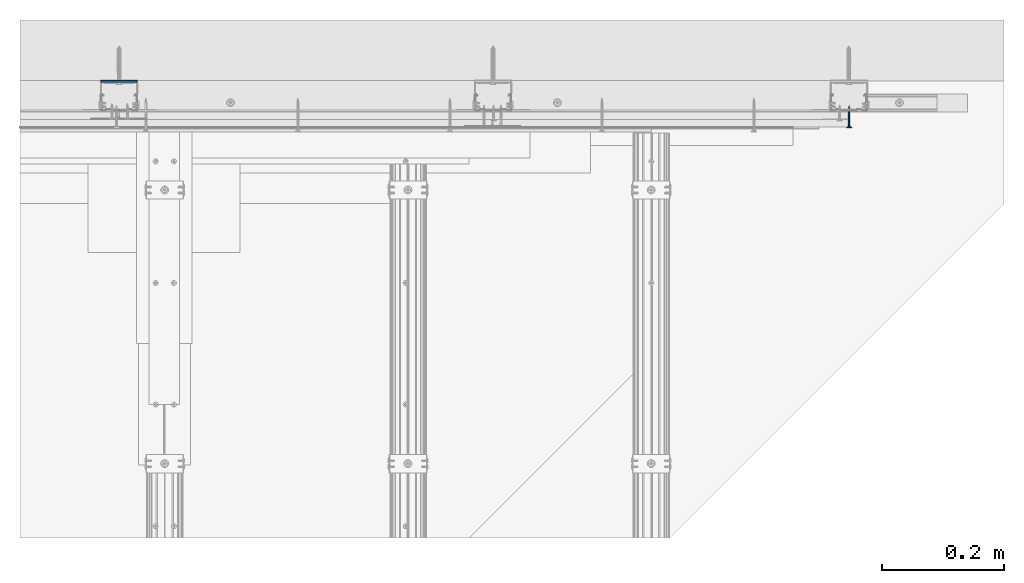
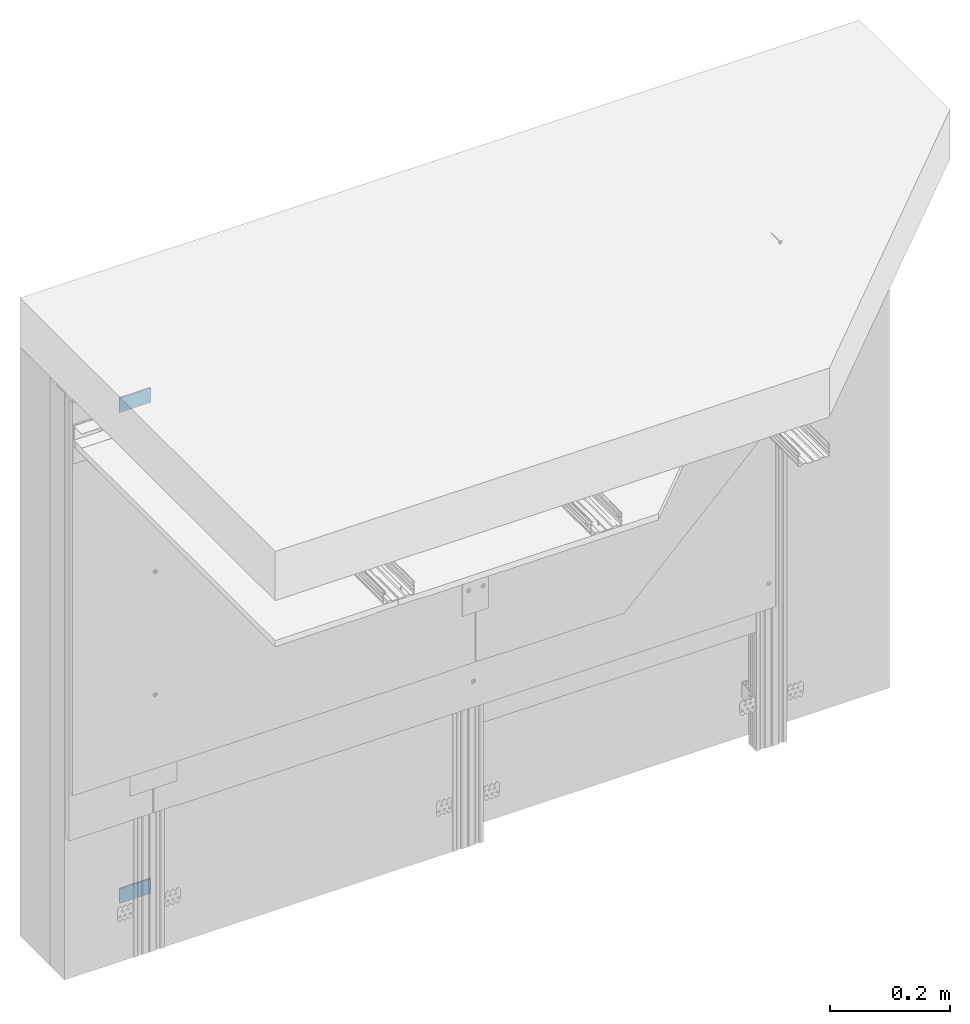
# One storey, part 55 of 62: 3 walls.
"""IFC2X3 building model written with IfcOpenShell, lengths in millimetres."""

from ifc_helpers import new_model, entity, si_unit, converted_unit, direction, frame, origin, origin_with_axes, place, context, project, spatial, faceted_brep, element, save


model = new_model("IFC2X3")

# Units and contexts
model_context = context("Model", 3, precision=1e-05, world=origin(), true_north=direction((0.0, 1.0, 0.0)))
ifc_project = project(units=[si_unit("LENGTHUNIT", "METRE", prefix="MILLI"), si_unit("AREAUNIT", "SQUARE_METRE"), si_unit("VOLUMEUNIT", "CUBIC_METRE"), converted_unit("PLANEANGLEUNIT", "DEGREE", entity("IfcPlaneAngleMeasure", 0.01745), si_unit("PLANEANGLEUNIT", "RADIAN"), dimensions=[0, 0, 0, 0, 0, 0, 0]), si_unit("SOLIDANGLEUNIT", "STERADIAN"), si_unit("MASSUNIT", "GRAM"), si_unit("TIMEUNIT", "SECOND"), si_unit("THERMODYNAMICTEMPERATUREUNIT", "DEGREE_CELSIUS"), si_unit("LUMINOUSINTENSITYUNIT", "LUMEN")], contexts=[model_context])

# Site, building, storey
site_placement = place(None, origin_with_axes())
site = spatial("IfcSite", under=ifc_project, at=site_placement, Name="Default Site", CompositionType="ELEMENT")
building_placement = place(site_placement, origin_with_axes())
building = spatial("IfcBuilding", under=site, at=building_placement, Name="Default Building", CompositionType="ELEMENT")
storey_placement = place(building_placement, origin_with_axes())
storey = spatial("IfcBuildingStorey", under=building, at=storey_placement, Name="Default Building Storey", CompositionType="ELEMENT", Elevation=0.0)

# Walls
wall_placement = place(storey_placement, frame((3625.888865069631, 6778.439791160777, 1790.746376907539), z_axis=(0.0, 0.0, -1.0), x_axis=(1.0, 4.718447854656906e-16, 0.0)))
element("IfcWall", 1, at=wall_placement, inside=storey, Name="Wkręt RIGIPS TN 35", context=model_context, shape_type="Brep", body=[
    faceted_brep([(-141.5377463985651, 4832.598051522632, 555.8000000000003), (-141.5377463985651, 4833.259713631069, 555.8000000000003), (-141.4875329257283, 4833.259713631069, 555.1619773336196), (-141.4875329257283, 4832.598051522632, 555.1619773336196), (-141.3381289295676, 4833.259713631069, 554.5396649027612), (-141.3381289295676, 4832.598051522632, 554.5396649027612), (-141.0932132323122, 4833.259713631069, 553.9483861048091), (-141.0932132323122, 4832.598051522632, 553.9483861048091), (-140.7588164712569, 4833.259713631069, 553.4027001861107), (-140.7588164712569, 4832.598051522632, 553.4027001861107), (-140.3431726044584, 4833.259713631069, 552.9160437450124), (-140.4541727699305, 4832.598051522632, 553.0314907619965), (-140.1080097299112, 4832.598051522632, 552.6986614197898), (-139.8565161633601, 4833.259713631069, 552.5003998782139), (-139.7251262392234, 4832.598051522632, 552.4088262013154), (-139.3108302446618, 4833.259713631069, 552.1660031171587), (-139.3108302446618, 4832.598051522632, 552.1660031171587), (-138.8708651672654, 4832.598051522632, 551.9735584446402), (-138.7195514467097, 4833.259713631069, 551.9210874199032), (-138.4113302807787, 4832.598051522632, 551.8341600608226), (-137.9385961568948, 4832.598051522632, 551.7497404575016), (-138.0972390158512, 4833.259713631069, 551.7716834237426), (-137.4592163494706, 4833.259713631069, 551.7214699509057), (-137.4592163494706, 4832.598051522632, 551.7214699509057), (-136.8211936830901, 4833.259713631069, 551.7716834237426), (-136.8211936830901, 4832.598051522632, 551.7716834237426), (-136.1988812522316, 4833.259713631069, 551.9210874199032), (-136.1988812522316, 4832.598051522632, 551.9210874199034), (-135.6076024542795, 4833.259713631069, 552.1660031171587), (-135.6076024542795, 4832.598051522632, 552.1660031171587), (-135.0619165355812, 4833.259713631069, 552.5003998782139), (-135.0619165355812, 4832.598051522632, 552.5003998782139), (-134.5752600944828, 4833.259713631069, 552.9160437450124), (-134.5752600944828, 4832.598051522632, 552.9160437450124), (-134.1596162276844, 4833.259713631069, 553.4027001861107), (-134.1596162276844, 4832.598051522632, 553.4027001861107), (-133.8252194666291, 4833.259713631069, 553.9483861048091), (-133.8252194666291, 4832.598051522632, 553.9483861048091), (-133.5803037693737, 4833.259713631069, 554.5396649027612), (-133.5803037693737, 4832.598051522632, 554.5396649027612), (-133.430899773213, 4833.259713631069, 556.4380226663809), (-133.430899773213, 4832.598051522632, 556.4380226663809), (-133.3806863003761, 4832.598051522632, 555.8000000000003), (-133.3806863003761, 4833.259713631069, 555.8000000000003), (-133.430899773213, 4832.598051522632, 555.1619773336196), (-133.430899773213, 4833.259713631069, 555.1619773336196), (-133.5803037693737, 4833.259713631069, 557.0603350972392), (-133.5803037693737, 4832.598051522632, 557.0603350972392), (-133.8252194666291, 4833.259713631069, 557.6516138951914), (-133.8252194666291, 4832.598051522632, 557.6516138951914), (-134.1596162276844, 4833.259713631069, 558.1972998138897), (-134.1596162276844, 4832.598051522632, 558.1972998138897), (-134.5752600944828, 4833.259713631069, 558.683956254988), (-134.5752600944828, 4832.598051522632, 558.683956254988), (-135.0619165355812, 4833.259713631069, 559.0996001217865), (-135.0619165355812, 4832.598051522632, 559.0996001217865), (-135.6076024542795, 4833.259713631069, 559.4339968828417), (-135.6076024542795, 4832.598051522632, 559.4339968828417), (-136.1988812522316, 4833.259713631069, 559.6789125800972), (-136.1988812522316, 4832.598051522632, 559.6789125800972), (-136.8211936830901, 4833.259713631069, 559.8283165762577), (-136.8211936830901, 4832.598051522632, 559.8283165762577), (-137.4592163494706, 4833.259713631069, 559.8785300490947), (-137.4592163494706, 4832.598051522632, 559.8785300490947), (-138.0972390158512, 4833.259713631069, 559.8283165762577), (-138.0972390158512, 4832.598051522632, 559.8283165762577), (-138.7195514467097, 4833.259713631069, 559.6789125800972), (-138.7195514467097, 4832.598051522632, 559.6789125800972), (-139.3108302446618, 4833.259713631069, 559.4339968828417), (-139.3108302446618, 4832.598051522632, 559.4339968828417), (-139.8565161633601, 4833.259713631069, 559.0996001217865), (-139.8565161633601, 4832.598051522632, 559.0996001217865), (-140.3431726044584, 4833.259713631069, 558.683956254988), (-140.3431726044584, 4832.598051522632, 558.683956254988), (-140.7588164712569, 4833.259713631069, 558.1972998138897), (-140.7588164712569, 4832.598051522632, 558.1972998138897), (-141.0932132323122, 4833.259713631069, 557.6516138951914), (-141.0932132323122, 4832.598051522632, 557.6516138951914), (-141.3381289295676, 4833.259713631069, 557.0603350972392), (-141.3381289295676, 4832.598051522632, 557.0603350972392), (-141.4875329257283, 4833.259713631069, 556.4380226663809), (-141.4875329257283, 4832.598051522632, 556.4380226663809), (-137.8060615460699, 4829.281368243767, 554.5055560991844), (-137.4592163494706, 4828.206294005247, 554.5693795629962), (-137.651727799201, 4828.206294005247, 554.5845305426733), (-137.4592163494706, 4829.281368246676, 554.4598930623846), (-137.83949897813, 4828.206294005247, 554.6296104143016), (-138.1292698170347, 4829.281368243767, 554.639433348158), (-138.0179063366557, 4828.206294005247, 554.7035091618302), (-138.1825568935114, 4828.206294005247, 554.804407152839), (-138.4068150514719, 4829.281368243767, 554.8524012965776), (-138.329396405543, 4828.206294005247, 554.929819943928), (-138.6197830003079, 4829.281368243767, 555.1299465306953), (-138.4548091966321, 4828.206294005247, 555.0766594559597), (-138.5557071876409, 4828.206294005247, 555.2413100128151), (-138.7536602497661, 4829.281368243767, 555.4531548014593), (-138.6296059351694, 4828.206294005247, 555.4197173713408), (-138.6746858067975, 4828.206294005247, 555.60748855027), (-138.7993232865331, 4829.281368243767, 555.7999999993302), (-138.6898367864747, 4828.206294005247, 555.8000000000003), (-138.753660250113, 4829.281368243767, 556.1468451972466), (-138.6746858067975, 4828.206294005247, 555.9925114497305), (-138.6296059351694, 4828.206294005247, 556.1802826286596), (-138.6197830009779, 4829.281368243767, 556.4700534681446), (-138.5557071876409, 4828.206294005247, 556.3586899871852), (-138.4548091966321, 4828.206294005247, 556.5233405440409), (-138.4068150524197, 4829.281368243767, 556.7475987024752), (-138.329396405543, 4828.206294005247, 556.6701800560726), (-138.1292698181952, 4829.281368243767, 556.9605666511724), (-138.1825568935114, 4828.206294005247, 556.7955928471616), (-138.0179063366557, 4828.206294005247, 556.8964908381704), (-137.8060615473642, 4829.281368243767, 557.0944439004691), (-137.83949897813, 4828.206294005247, 556.9703895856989), (-137.651727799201, 4828.206294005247, 557.0154694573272), (-137.4592163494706, 4829.281368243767, 557.1401069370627), (-137.4592163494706, 4828.206294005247, 557.0306204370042), (-137.112371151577, 4829.281368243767, 557.0944439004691), (-137.2667048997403, 4828.206294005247, 557.0154694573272), (-137.0789337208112, 4828.206294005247, 556.9703895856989), (-136.7891628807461, 4829.281368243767, 556.9605666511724), (-136.9005263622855, 4828.206294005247, 556.8964908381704), (-136.7358758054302, 4828.206294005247, 556.7955928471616), (-136.5116176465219, 4829.281368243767, 556.7475987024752), (-136.5890362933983, 4828.206294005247, 556.6701800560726), (-136.2986496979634, 4829.281368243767, 556.4700534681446), (-136.4636235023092, 4828.206294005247, 556.5233405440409), (-136.3627255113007, 4828.206294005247, 556.3586899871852), (-136.1647724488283, 4829.281368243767, 556.1468451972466), (-136.2888267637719, 4828.206294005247, 556.1802826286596), (-136.2437468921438, 4828.206294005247, 555.9925114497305), (-136.1191094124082, 4829.281368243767, 555.7999999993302), (-136.2285959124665, 4828.206294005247, 555.8000000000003), (-136.1647724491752, 4829.281368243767, 555.4531548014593), (-136.2437468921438, 4828.206294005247, 555.60748855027), (-136.2888267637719, 4828.206294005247, 555.4197173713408), (-136.2986496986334, 4829.281368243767, 555.1299465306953), (-136.3627255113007, 4828.206294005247, 555.2413100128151), (-136.4636235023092, 4828.206294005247, 555.0766594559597), (-136.5116176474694, 4829.281368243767, 554.8524012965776), (-136.5890362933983, 4828.206294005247, 554.929819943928), (-136.7891628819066, 4829.281368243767, 554.639433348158), (-136.7358758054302, 4828.206294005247, 554.804407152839), (-136.9005263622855, 4828.206294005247, 554.7035091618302), (-137.1123711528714, 4829.281368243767, 554.5055560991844), (-137.0789337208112, 4828.206294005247, 554.6296104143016), (-137.2667048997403, 4828.206294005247, 554.5845305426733), (-137.4592163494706, 4830.288222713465, 554.1737111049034), (-137.8801308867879, 4830.288222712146, 554.229125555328), (-138.2723607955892, 4830.288222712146, 554.3915925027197), (-138.6091762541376, 4830.288222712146, 554.6500400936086), (-138.8676238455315, 4830.288222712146, 554.9868555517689), (-139.0300907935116, 4830.288222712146, 555.3790854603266), (-139.0855052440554, 4830.288222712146, 555.7999999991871), (-139.0300907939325, 4830.288222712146, 556.2209145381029), (-138.8676238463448, 4830.288222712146, 556.6131444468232), (-138.6091762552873, 4830.288222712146, 556.9499599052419), (-138.2723607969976, 4830.288222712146, 557.2084074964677), (-137.8801308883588, 4830.288222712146, 557.3708744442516), (-137.4592163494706, 4830.288222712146, 557.426288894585), (-137.0383018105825, 4830.288222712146, 557.3708744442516), (-136.6460719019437, 4830.288222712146, 557.2084074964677), (-136.309256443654, 4830.288222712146, 556.9499599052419), (-136.0508088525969, 4830.288222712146, 556.6131444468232), (-135.8883419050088, 4830.288222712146, 556.2209145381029), (-135.8329274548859, 4830.288222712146, 555.7999999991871), (-135.8883419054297, 4830.288222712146, 555.3790854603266), (-136.0508088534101, 4830.288222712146, 554.9868555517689), (-136.309256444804, 4830.288222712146, 554.6500400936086), (-136.6460719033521, 4830.288222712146, 554.3915925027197), (-137.0383018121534, 4830.288222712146, 554.229125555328), (-137.4592163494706, 4831.168773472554, 553.7273431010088), (-137.9956594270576, 4831.168773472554, 553.7979671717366), (-138.4955447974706, 4831.168773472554, 554.005026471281), (-138.9248060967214, 4831.168773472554, 554.3344102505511), (-139.2541898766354, 4831.168773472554, 554.7636715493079), (-139.4612491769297, 4831.168773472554, 555.2635569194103), (-139.5318732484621, 4831.168773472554, 555.7999999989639), (-139.461249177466, 4831.168773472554, 556.3364430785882), (-139.2541898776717, 4831.168773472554, 556.8363284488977), (-138.9248060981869, 4831.168773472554, 557.2655897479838), (-138.4955447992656, 4831.168773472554, 557.594973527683), (-137.9956594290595, 4831.168773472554, 557.8020328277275), (-137.4592163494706, 4831.168773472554, 557.8726568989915), (-136.9227732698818, 4831.168773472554, 557.8020328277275), (-136.4228878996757, 4831.168773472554, 557.594973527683), (-135.9936266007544, 4831.168773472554, 557.2655897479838), (-135.6642428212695, 4831.168773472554, 556.8363284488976), (-135.4571835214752, 4831.168773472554, 556.3364430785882), (-135.3865594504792, 4831.168773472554, 555.7999999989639), (-135.4571835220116, 4831.168773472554, 555.2635569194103), (-135.6642428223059, 4831.168773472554, 554.7636715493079), (-135.9936266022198, 4831.168773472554, 554.3344102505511), (-136.4228879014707, 4831.168773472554, 554.005026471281), (-136.9227732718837, 4831.168773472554, 553.7979671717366), (-137.4592163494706, 4831.872222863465, 553.1465393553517), (-138.1459824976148, 4831.872222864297, 553.2369538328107), (-138.7859466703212, 4831.872222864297, 553.5020356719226), (-139.3354963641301, 4831.872222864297, 553.9237199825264), (-139.7571806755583, 4831.872222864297, 554.4732696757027), (-140.02226251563, 4831.872222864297, 555.1132338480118), (-140.1126769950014, 4831.872222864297, 555.7999999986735), (-140.0222625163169, 4831.872222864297, 556.4867661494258), (-139.7571806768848, 4831.872222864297, 557.1267303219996), (-139.3354963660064, 4831.872222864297, 557.6762800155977), (-138.785946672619, 4831.872222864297, 558.0979643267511), (-138.1459825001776, 4831.872222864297, 558.3630461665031), (-137.4592163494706, 4831.872222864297, 558.4534606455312), (-136.7724501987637, 4831.872222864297, 558.3630461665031), (-136.1324860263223, 4831.872222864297, 558.0979643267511), (-135.5829363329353, 4831.872222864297, 557.6762800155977), (-135.1612520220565, 4831.872222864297, 557.1267303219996), (-134.8961701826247, 4831.872222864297, 556.4867661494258), (-134.8057557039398, 4831.872222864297, 555.7999999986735), (-134.8961701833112, 4831.872222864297, 555.1132338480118), (-135.161252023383, 4831.872222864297, 554.4732696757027), (-135.5829363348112, 4831.872222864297, 553.9237199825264), (-136.1324860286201, 4831.872222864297, 553.5020356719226), (-136.7724502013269, 4831.872222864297, 553.2369538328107), (-137.4592163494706, 4832.357989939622, 552.4648055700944), (-138.3224281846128, 4832.357989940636, 552.578449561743), (-139.1268135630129, 4832.357989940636, 552.9116368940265), (-139.8175549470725, 4832.357989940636, 553.4416613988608), (-140.3475794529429, 4832.357989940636, 554.1324027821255), (-140.6807667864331, 4832.357989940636, 554.9367881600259), (-140.7944107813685, 4832.357989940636, 555.7999999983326), (-140.6807667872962, 4832.357989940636, 556.6632118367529), (-140.3475794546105, 4832.357989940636, 557.4675972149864), (-139.817554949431, 4832.357989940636, 558.1583385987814), (-139.1268135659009, 4832.357989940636, 558.6883631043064), (-138.3224281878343, 4832.357989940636, 559.0215504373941), (-137.4592163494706, 4832.357989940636, 559.1351944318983), (-136.5960045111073, 4832.357989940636, 559.0215504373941), (-135.7916191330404, 4832.357989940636, 558.6883631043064), (-135.1008777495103, 4832.357989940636, 558.1583385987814), (-134.5708532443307, 4832.357989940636, 557.4675972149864), (-134.2376659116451, 4832.357989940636, 556.6632118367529), (-134.1240219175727, 4832.357989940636, 555.7999999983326), (-134.2376659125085, 4832.357989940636, 554.9367881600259), (-134.5708532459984, 4832.357989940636, 554.1324027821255), (-135.1008777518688, 4832.357989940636, 553.4416613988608), (-135.7916191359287, 4832.357989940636, 552.9116368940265), (-136.5960045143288, 4832.357989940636, 552.578449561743), (-138.6898367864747, 4804.093757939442, 555.8000000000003), (-138.6746858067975, 4804.093757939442, 555.60748855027), (-138.6296059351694, 4804.093757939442, 555.4197173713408), (-138.5557071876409, 4804.093757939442, 555.2413100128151), (-138.4548091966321, 4804.093757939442, 555.0766594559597), (-138.329396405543, 4804.093757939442, 554.929819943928), (-138.1825568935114, 4804.093757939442, 554.804407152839), (-138.0179063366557, 4804.093757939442, 554.7035091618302), (-137.83949897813, 4804.093757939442, 554.6296104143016), (-137.651727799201, 4804.093757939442, 554.5845305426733), (-137.4592163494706, 4804.093757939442, 554.5693795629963), (-137.2667048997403, 4804.093757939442, 554.5845305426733), (-137.0789337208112, 4804.093757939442, 554.6296104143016), (-136.9005263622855, 4804.093757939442, 554.7035091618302), (-136.7358758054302, 4804.093757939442, 554.804407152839), (-136.5890362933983, 4804.093757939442, 554.929819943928), (-136.4636235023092, 4804.093757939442, 555.0766594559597), (-136.3627255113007, 4804.093757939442, 555.2413100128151), (-136.2888267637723, 4804.093757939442, 555.4197173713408), (-136.2437468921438, 4804.093757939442, 555.9925114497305), (-136.2285959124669, 4804.093757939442, 555.8000000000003), (-136.2437468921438, 4804.093757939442, 555.60748855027), (-136.2888267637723, 4804.093757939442, 556.1802826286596), (-136.3627255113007, 4804.093757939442, 556.3586899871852), (-136.4636235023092, 4804.093757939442, 556.5233405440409), (-136.5890362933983, 4804.093757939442, 556.6701800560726), (-136.7358758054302, 4804.093757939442, 556.7955928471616), (-136.9005263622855, 4804.093757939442, 556.8964908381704), (-137.0789337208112, 4804.093757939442, 556.9703895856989), (-137.2667048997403, 4804.093757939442, 557.0154694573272), (-137.4592163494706, 4804.093757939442, 557.0306204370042), (-137.651727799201, 4804.093757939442, 557.0154694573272), (-137.83949897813, 4804.093757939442, 556.9703895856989), (-138.0179063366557, 4804.093757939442, 556.8964908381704), (-138.1825568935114, 4804.093757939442, 556.7955928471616), (-138.329396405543, 4804.093757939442, 556.6701800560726), (-138.4548091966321, 4804.093757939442, 556.5233405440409), (-138.5557071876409, 4804.093757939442, 556.3586899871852), (-138.6296059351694, 4804.093757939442, 556.1802826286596), (-138.6746858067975, 4804.093757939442, 555.9925114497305), (-137.4592163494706, 4797.627063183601, 555.8000000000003), (-139.9592163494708, 4833.259713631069, 556.3000000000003), (-137.9592163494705, 4833.259713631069, 556.3000000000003), (-139.9592163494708, 4833.259713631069, 555.3000000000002), (-137.9592163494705, 4833.259713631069, 555.3000000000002), (-137.9592163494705, 4833.259713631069, 553.3000000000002), (-136.9592163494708, 4833.259713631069, 553.3000000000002), (-136.9592163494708, 4833.259713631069, 555.3000000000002), (-134.9592163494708, 4833.259713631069, 555.3000000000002), (-134.9592163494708, 4833.259713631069, 556.3000000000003), (-136.9592163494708, 4833.259713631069, 556.3000000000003), (-136.9592163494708, 4833.259713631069, 558.3000000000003), (-137.9592163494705, 4833.259713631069, 558.3000000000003), (-136.9592163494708, 4831.988379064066, 556.3000000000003), (-134.9592163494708, 4831.988379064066, 556.3000000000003), (-134.9592163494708, 4831.988379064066, 555.3000000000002), (-136.9592163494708, 4831.988379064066, 555.3000000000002), (-136.9592163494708, 4831.988379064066, 553.3000000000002), (-137.9592163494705, 4831.988379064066, 553.3000000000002), (-137.9592163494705, 4831.988379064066, 555.3000000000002), (-139.9592163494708, 4831.988379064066, 555.3000000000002), (-139.9592163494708, 4831.988379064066, 556.3000000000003), (-137.9592163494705, 4831.988379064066, 556.3000000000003), (-137.9592163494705, 4831.988379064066, 558.3000000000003), (-136.9592163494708, 4831.988379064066, 558.3000000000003)], [[[0, 1, 2, 3]], [[4, 5, 3, 2]], [[6, 7, 5, 4]], [[7, 6, 8, 9]], [[8, 10, 9]], [[10, 11, 9]], [[12, 11, 13]], [[11, 10, 13]], [[13, 14, 12]], [[13, 15, 14]], [[15, 16, 14]], [[17, 16, 18]], [[16, 15, 18]], [[18, 19, 17]], [[20, 19, 21]], [[19, 18, 21]], [[21, 22, 20]], [[22, 23, 20]], [[23, 22, 24, 25]], [[26, 27, 25, 24]], [[28, 29, 27, 26]], [[29, 28, 30, 31]], [[32, 33, 31, 30]], [[33, 32, 34, 35]], [[36, 37, 35, 34]], [[38, 39, 37, 36]], [[40, 41, 42, 43]], [[43, 42, 44, 45]], [[39, 38, 45, 44]], [[46, 47, 41, 40]], [[48, 49, 47, 46]], [[49, 48, 50, 51]], [[52, 53, 51, 50]], [[53, 52, 54, 55]], [[56, 57, 55, 54]], [[58, 59, 57, 56]], [[59, 58, 60, 61]], [[62, 63, 61, 60]], [[63, 62, 64, 65]], [[66, 67, 65, 64]], [[68, 69, 67, 66]], [[69, 68, 70, 71]], [[72, 73, 71, 70]], [[73, 72, 74, 75]], [[76, 77, 75, 74]], [[78, 79, 77, 76]], [[79, 78, 80, 81]], [[1, 0, 81, 80]], [[82, 83, 84]], [[82, 85, 83]], [[84, 86, 82]], [[82, 86, 87]], [[88, 87, 86]], [[87, 88, 89]], [[89, 90, 87]], [[89, 91, 90]], [[92, 91, 93]], [[92, 90, 91]], [[93, 94, 92]], [[92, 94, 95]], [[96, 95, 94]], [[95, 96, 97]], [[97, 98, 95]], [[97, 99, 98]], [[100, 99, 101]], [[100, 98, 99]], [[101, 102, 100]], [[100, 102, 103]], [[104, 103, 102]], [[103, 104, 105]], [[105, 106, 103]], [[105, 107, 106]], [[108, 107, 109]], [[108, 106, 107]], [[109, 110, 108]], [[108, 110, 111]], [[112, 111, 110]], [[111, 112, 113]], [[113, 114, 111]], [[113, 115, 114]], [[116, 115, 117]], [[116, 114, 115]], [[117, 118, 116]], [[116, 118, 119]], [[120, 119, 118]], [[119, 120, 121]], [[121, 122, 119]], [[121, 123, 122]], [[124, 123, 125]], [[124, 122, 123]], [[125, 126, 124]], [[124, 126, 127]], [[128, 127, 126]], [[127, 128, 129]], [[129, 130, 127]], [[129, 131, 130]], [[132, 131, 133]], [[132, 130, 131]], [[133, 134, 132]], [[132, 134, 135]], [[136, 135, 134]], [[135, 136, 137]], [[137, 138, 135]], [[137, 139, 138]], [[140, 139, 141]], [[140, 138, 139]], [[141, 142, 140]], [[140, 142, 143]], [[144, 143, 142]], [[143, 144, 145]], [[145, 85, 143]], [[145, 83, 85]], [[146, 85, 147]], [[82, 147, 85]], [[87, 148, 147, 82]], [[90, 149, 148, 87]], [[92, 150, 149, 90]], [[95, 151, 150, 92]], [[98, 152, 151, 95]], [[100, 153, 152, 98]], [[103, 154, 153, 100]], [[106, 155, 154, 103]], [[108, 156, 155, 106]], [[111, 157, 156, 108]], [[114, 158, 157, 111]], [[116, 159, 158, 114]], [[119, 160, 159, 116]], [[122, 161, 160, 119]], [[124, 162, 161, 122]], [[127, 163, 162, 124]], [[130, 164, 163, 127]], [[132, 165, 164, 130]], [[135, 166, 165, 132]], [[138, 167, 166, 135]], [[140, 168, 167, 138]], [[143, 169, 168, 140]], [[143, 85, 169]], [[146, 169, 85]], [[170, 146, 171]], [[147, 171, 146]], [[148, 172, 171, 147]], [[149, 173, 172, 148]], [[150, 174, 173, 149]], [[151, 175, 174, 150]], [[152, 176, 175, 151]], [[153, 177, 176, 152]], [[154, 178, 177, 153]], [[155, 179, 178, 154]], [[156, 180, 179, 155]], [[157, 181, 180, 156]], [[158, 182, 181, 157]], [[159, 183, 182, 158]], [[160, 184, 183, 159]], [[161, 185, 184, 160]], [[162, 186, 185, 161]], [[163, 187, 186, 162]], [[164, 188, 187, 163]], [[165, 189, 188, 164]], [[166, 190, 189, 165]], [[167, 191, 190, 166]], [[168, 192, 191, 167]], [[169, 193, 192, 168]], [[169, 146, 193]], [[170, 193, 146]], [[194, 170, 195]], [[171, 195, 170]], [[172, 196, 195, 171]], [[173, 197, 196, 172]], [[174, 198, 197, 173]], [[175, 199, 198, 174]], [[176, 200, 199, 175]], [[177, 201, 200, 176]], [[178, 202, 201, 177]], [[179, 203, 202, 178]], [[180, 204, 203, 179]], [[181, 205, 204, 180]], [[182, 206, 205, 181]], [[183, 207, 206, 182]], [[184, 208, 207, 183]], [[185, 209, 208, 184]], [[186, 210, 209, 185]], [[187, 211, 210, 186]], [[188, 212, 211, 187]], [[189, 213, 212, 188]], [[190, 214, 213, 189]], [[191, 215, 214, 190]], [[192, 216, 215, 191]], [[193, 217, 216, 192]], [[193, 170, 217]], [[194, 217, 170]], [[218, 19, 20]], [[218, 219, 19]], [[20, 23, 218]], [[218, 194, 219]], [[195, 219, 194]], [[219, 16, 17]], [[219, 220, 16]], [[17, 19, 219]], [[196, 220, 219, 195]], [[221, 11, 12]], [[220, 12, 14]], [[220, 221, 12]], [[14, 16, 220]], [[197, 221, 220, 196]], [[222, 7, 9]], [[9, 221, 222]], [[9, 11, 221]], [[198, 222, 221, 197]], [[5, 7, 223]], [[222, 223, 7]], [[199, 223, 222, 198]], [[223, 0, 3]], [[223, 224, 0]], [[3, 5, 223]], [[200, 224, 223, 199]], [[225, 79, 81]], [[81, 224, 225]], [[81, 0, 224]], [[201, 225, 224, 200]], [[225, 226, 77, 79]], [[202, 226, 225, 201]], [[226, 73, 75]], [[226, 227, 73]], [[75, 77, 226]], [[203, 227, 226, 202]], [[228, 69, 71]], [[71, 227, 228]], [[71, 73, 227]], [[204, 228, 227, 203]], [[228, 229, 67, 69]], [[205, 229, 228, 204]], [[229, 63, 65]], [[229, 230, 63]], [[65, 67, 229]], [[206, 230, 229, 205]], [[231, 59, 61]], [[61, 230, 231]], [[61, 63, 230]], [[207, 231, 230, 206]], [[231, 232, 57, 59]], [[208, 232, 231, 207]], [[232, 53, 55]], [[232, 233, 53]], [[55, 57, 232]], [[209, 233, 232, 208]], [[234, 49, 51]], [[51, 233, 234]], [[51, 53, 233]], [[210, 234, 233, 209]], [[234, 235, 47, 49]], [[211, 235, 234, 210]], [[235, 42, 41]], [[235, 236, 42]], [[41, 47, 235]], [[212, 236, 235, 211]], [[237, 39, 44]], [[44, 236, 237]], [[44, 42, 236]], [[213, 237, 236, 212]], [[37, 39, 238]], [[237, 238, 39]], [[214, 238, 237, 213]], [[238, 33, 35]], [[238, 239, 33]], [[35, 37, 238]], [[215, 239, 238, 214]], [[240, 29, 31]], [[31, 239, 240]], [[31, 33, 239]], [[216, 240, 239, 215]], [[27, 29, 241]], [[240, 241, 29]], [[217, 241, 240, 216]], [[217, 194, 241]], [[218, 241, 194]], [[241, 23, 25]], [[241, 218, 23]], [[25, 27, 241]], [[242, 99, 97, 243]], [[96, 244, 243, 97]], [[94, 245, 244, 96]], [[245, 94, 93, 246]], [[91, 247, 246, 93]], [[247, 91, 89, 248]], [[88, 249, 248, 89]], [[86, 250, 249, 88]], [[250, 86, 84, 251]], [[83, 252, 251, 84]], [[252, 83, 145, 253]], [[144, 254, 253, 145]], [[142, 255, 254, 144]], [[255, 142, 141, 256]], [[139, 257, 256, 141]], [[257, 139, 137, 258]], [[136, 259, 258, 137]], [[134, 260, 259, 136]], [[129, 261, 262, 131]], [[131, 262, 263, 133]], [[260, 134, 133, 263]], [[128, 264, 261, 129]], [[126, 265, 264, 128]], [[265, 126, 125, 266]], [[123, 267, 266, 125]], [[267, 123, 121, 268]], [[120, 269, 268, 121]], [[118, 270, 269, 120]], [[270, 118, 117, 271]], [[115, 272, 271, 117]], [[272, 115, 113, 273]], [[112, 274, 273, 113]], [[110, 275, 274, 112]], [[275, 110, 109, 276]], [[107, 277, 276, 109]], [[277, 107, 105, 278]], [[104, 279, 278, 105]], [[102, 280, 279, 104]], [[280, 102, 101, 281]], [[99, 242, 281, 101]], [[243, 244, 282]], [[282, 242, 243]], [[244, 245, 282]], [[246, 247, 282]], [[282, 245, 246]], [[248, 249, 282]], [[282, 247, 248]], [[249, 250, 282]], [[251, 252, 282]], [[282, 250, 251]], [[253, 254, 282]], [[282, 252, 253]], [[254, 255, 282]], [[256, 257, 282]], [[282, 255, 256]], [[258, 259, 282]], [[282, 257, 258]], [[259, 260, 282]], [[263, 262, 282]], [[282, 260, 263]], [[261, 264, 282]], [[282, 262, 261]], [[264, 265, 282]], [[266, 267, 282]], [[282, 265, 266]], [[268, 269, 282]], [[282, 267, 268]], [[269, 270, 282]], [[271, 272, 282]], [[282, 270, 271]], [[273, 274, 282]], [[282, 272, 273]], [[274, 275, 282]], [[276, 277, 282]], [[282, 275, 276]], [[278, 279, 282]], [[282, 277, 278]], [[279, 280, 282]], [[281, 242, 282]], [[282, 280, 281]], [[283, 76, 74, 284]], [[283, 285, 286, 287, 288, 289, 290, 291, 292, 293, 294, 284, 74, 72, 70, 68, 66, 64, 62, 60, 58, 56, 54, 52, 50, 48, 46, 40, 43, 45, 38, 36, 34, 32, 30, 28, 26, 24, 22, 21, 18, 15, 13, 10, 8, 6, 4, 2, 1, 80, 78, 76]], [[295, 296, 297, 298, 299, 300, 301, 302, 303, 304, 305, 306]], [[297, 290, 289, 298]], [[296, 291, 290, 297]], [[295, 292, 291, 296]], [[306, 293, 292, 295]], [[305, 294, 293, 306]], [[304, 284, 294, 305]], [[303, 283, 284, 304]], [[302, 285, 283, 303]], [[301, 286, 285, 302]], [[300, 287, 286, 301]], [[299, 288, 287, 300]], [[298, 289, 288, 299]]]),
])
for number, where, z_axis, x_axis, name in (
    (2, (2258.124563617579, 2019.778611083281, 272.8482394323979), (0.0, 0.0, -1.0), (1.0, 0.0, 0.0), "Taśma uszczelniająca piankowa RIGIPS szer.30mm"),
    (3, (2258.124563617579, 2019.778611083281, 1272.848239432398), (0.0, 0.0, -1.0), (1.0, 0.0, 0.0), "Taśma uszczelniająca piankowa RIGIPS szer.30mm"),
):
    element("IfcWall", number, at=place(storey_placement, frame(where, z_axis=z_axis, x_axis=x_axis)), inside=storey, Name=name, context=model_context, shape_type="Brep", body=[
        faceted_brep([(59.99999999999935, 0.0, 4.511946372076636e-12), (0.0, 0.0, 0.0), (1.082867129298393e-12, 2.237925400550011e-11, -30.00000000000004), (60.00000000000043, 2.237925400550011e-11, -29.99999999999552), (0.0, -3.00000000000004, 0.0), (1.082867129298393e-12, -2.999999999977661, -30.00000000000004), (60.00000000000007, -3.00000000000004, 0.0), (60.00000000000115, -2.999999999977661, -30.00000000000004)], [[[0, 1, 2, 3]], [[1, 4, 5, 2]], [[4, 6, 7, 5]], [[6, 0, 3, 7]], [[7, 3, 2, 5]], [[0, 6, 4, 1]]]),
    ])

save(model, "model.ifc")
